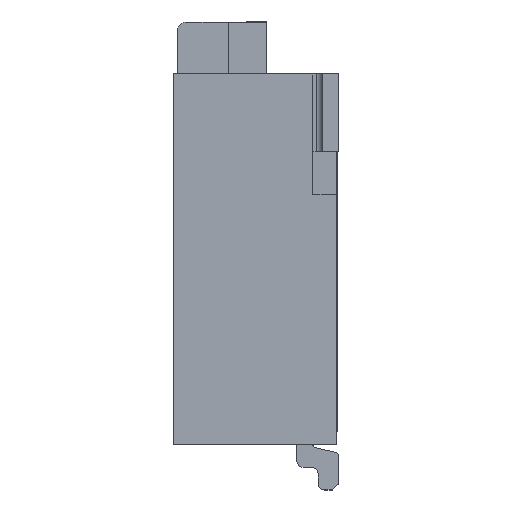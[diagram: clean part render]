
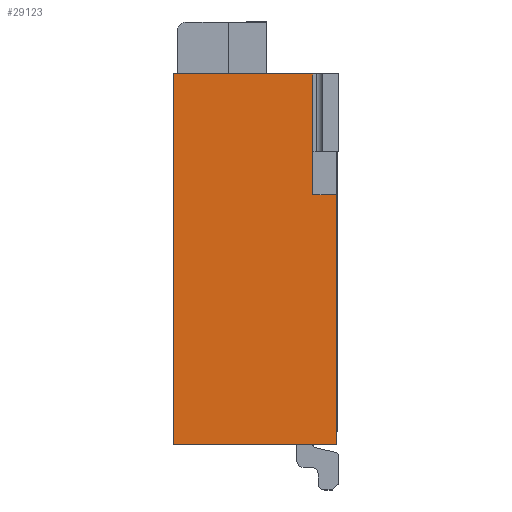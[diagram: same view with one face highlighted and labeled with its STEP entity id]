
A CAD part, left-side view. The second image highlights one B-rep face of the part: STEP entity #29123.
In plain terms, the highlighted planar face has unit normal (-1, 0, 0).
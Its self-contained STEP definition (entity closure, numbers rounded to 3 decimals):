
#2176 = CARTESIAN_POINT ( 'NONE',  ( -12.45, 0., 5.7 ) ) ;
#2209 = CARTESIAN_POINT ( 'NONE',  ( -12.45, -0.36, 0. ) ) ;
#3187 = ORIENTED_EDGE ( 'NONE', *, *, #25245, .F. ) ;
#5644 = CARTESIAN_POINT ( 'NONE',  ( -12.45, 1.89, 0. ) ) ;
#6594 = CARTESIAN_POINT ( 'NONE',  ( -12.45, 2.15, 0. ) ) ;
#7429 = EDGE_LOOP ( 'NONE', ( #39516, #3187, #35557, #26783, #15017, #36165 ) ) ;
#10868 = VERTEX_POINT ( 'NONE', #2209 ) ;
#11864 = VECTOR ( 'NONE', #40274, 1000. ) ;
#13789 = DIRECTION ( 'NONE',  ( 0., -1., 0. ) ) ;
#14931 = VECTOR ( 'NONE', #22404, 1000. ) ;
#15017 = ORIENTED_EDGE ( 'NONE', *, *, #19651, .F. ) ;
#15700 = VECTOR ( 'NONE', #32268, 1000. ) ;
#16775 = VERTEX_POINT ( 'NONE', #27173 ) ;
#17432 = CARTESIAN_POINT ( 'NONE',  ( -12.45, 0., 3.845 ) ) ;
#17569 = PLANE ( 'NONE',  #25249 ) ;
#17620 = VERTEX_POINT ( 'NONE', #37158 ) ;
#17731 = DIRECTION ( 'NONE',  ( 1., 0., 0. ) ) ;
#19651 = EDGE_CURVE ( 'NONE', #10868, #16775, #23530, .T. ) ;
#21098 = LINE ( 'NONE', #31131, #39708 ) ;
#21916 = LINE ( 'NONE', #6594, #11864 ) ;
#22404 = DIRECTION ( 'NONE',  ( 0., -1., 0. ) ) ;
#22525 = VERTEX_POINT ( 'NONE', #40023 ) ;
#23283 = EDGE_CURVE ( 'NONE', #17620, #22525, #34923, .T. ) ;
#23530 = LINE ( 'NONE', #5644, #33509 ) ;
#25245 = EDGE_CURVE ( 'NONE', #22525, #37455, #35654, .T. ) ;
#25249 = AXIS2_PLACEMENT_3D ( 'NONE', #40052, #17731, #43717 ) ;
#25895 = FACE_OUTER_BOUND ( 'NONE', #7429, .T. ) ;
#26162 = LINE ( 'NONE', #17432, #44642 ) ;
#26175 = CARTESIAN_POINT ( 'NONE',  ( -12.45, 2.15, 5.7 ) ) ;
#26783 = ORIENTED_EDGE ( 'NONE', *, *, #38054, .F. ) ;
#27173 = CARTESIAN_POINT ( 'NONE',  ( -12.45, 2.15, 0. ) ) ;
#27366 = DIRECTION ( 'NONE',  ( 0., 0., -1. ) ) ;
#27987 = CARTESIAN_POINT ( 'NONE',  ( -12.45, -0.36, 3.845 ) ) ;
#29123 = ADVANCED_FACE ( 'NONE', ( #25895 ), #17569, .F. ) ;
#30501 = VERTEX_POINT ( 'NONE', #27987 ) ;
#31131 = CARTESIAN_POINT ( 'NONE',  ( -12.45, -0.36, 5.7 ) ) ;
#31956 = DIRECTION ( 'NONE',  ( 0., 1., 0. ) ) ;
#31968 = EDGE_CURVE ( 'NONE', #30501, #10868, #21098, .T. ) ;
#32268 = DIRECTION ( 'NONE',  ( 0., 0., -1. ) ) ;
#33509 = VECTOR ( 'NONE', #31956, 1000. ) ;
#34923 = LINE ( 'NONE', #26175, #14931 ) ;
#35557 = ORIENTED_EDGE ( 'NONE', *, *, #23283, .F. ) ;
#35654 = LINE ( 'NONE', #2176, #15700 ) ;
#36165 = ORIENTED_EDGE ( 'NONE', *, *, #31968, .F. ) ;
#37158 = CARTESIAN_POINT ( 'NONE',  ( -12.45, 2.15, 5.7 ) ) ;
#37455 = VERTEX_POINT ( 'NONE', #40654 ) ;
#38054 = EDGE_CURVE ( 'NONE', #16775, #17620, #21916, .T. ) ;
#39516 = ORIENTED_EDGE ( 'NONE', *, *, #44022, .F. ) ;
#39708 = VECTOR ( 'NONE', #27366, 1000. ) ;
#40023 = CARTESIAN_POINT ( 'NONE',  ( -12.45, 0., 5.7 ) ) ;
#40052 = CARTESIAN_POINT ( 'NONE',  ( -12.45, -0.38, 5.7 ) ) ;
#40274 = DIRECTION ( 'NONE',  ( 0., 0., 1. ) ) ;
#40654 = CARTESIAN_POINT ( 'NONE',  ( -12.45, 0., 3.845 ) ) ;
#43717 = DIRECTION ( 'NONE',  ( 0., 0., -1. ) ) ;
#44022 = EDGE_CURVE ( 'NONE', #37455, #30501, #26162, .T. ) ;
#44642 = VECTOR ( 'NONE', #13789, 1000. ) ;
